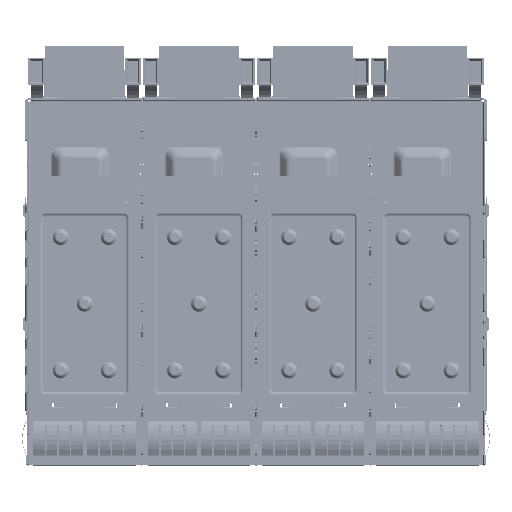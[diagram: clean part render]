
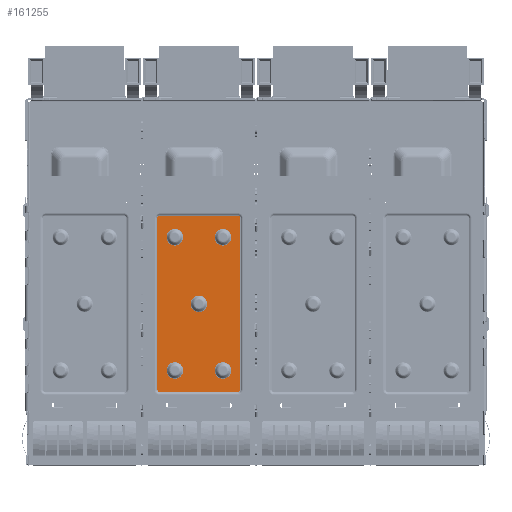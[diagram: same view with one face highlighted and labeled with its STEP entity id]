
A CAD part, top view. The second image highlights one B-rep face of the part: STEP entity #161255.
In plain terms, the highlighted planar face has unit normal (0, 0, 1).
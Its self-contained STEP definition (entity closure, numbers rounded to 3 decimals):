
#15952=CARTESIAN_POINT('',(-57.,41.197,-15.575));
#15953=DIRECTION('',(0.,0.,-1.));
#15954=DIRECTION('',(0.,1.,0.));
#15955=AXIS2_PLACEMENT_3D('',#15952,#15953,#15954);
#15957=DIRECTION('',(0.,-1.,0.));
#15958=VECTOR('',#15957,28.5);
#15959=CARTESIAN_POINT('',(-56.595,41.197,-15.575));
#15960=LINE('',#15959,#15958);
#15961=CARTESIAN_POINT('',(-57.,12.697,-15.575));
#15962=DIRECTION('',(0.,0.,-1.));
#15963=DIRECTION('',(1.,0.,0.));
#15964=AXIS2_PLACEMENT_3D('',#15961,#15962,#15963);
#15966=DIRECTION('',(-1.,0.,0.));
#15967=VECTOR('',#15966,13.);
#15968=CARTESIAN_POINT('',(-57.,12.292,-15.575));
#15969=LINE('',#15968,#15967);
#15970=CARTESIAN_POINT('',(-70.,12.697,-15.575));
#15971=DIRECTION('',(0.,0.,-1.));
#15972=DIRECTION('',(0.,-1.,0.));
#15973=AXIS2_PLACEMENT_3D('',#15970,#15971,#15972);
#15975=DIRECTION('',(0.,1.,0.));
#15976=VECTOR('',#15975,28.5);
#15977=CARTESIAN_POINT('',(-70.405,12.697,-15.575));
#15978=LINE('',#15977,#15976);
#15979=CARTESIAN_POINT('',(-70.,41.197,-15.575));
#15980=DIRECTION('',(0.,0.,-1.));
#15981=DIRECTION('',(-1.,0.,0.));
#15982=AXIS2_PLACEMENT_3D('',#15979,#15980,#15981);
#15984=DIRECTION('',(1.,0.,0.));
#15985=VECTOR('',#15984,13.);
#15986=CARTESIAN_POINT('',(-70.,41.602,-15.575));
#15987=LINE('',#15986,#15985);
#15988=CARTESIAN_POINT('',(-59.5,15.862,-15.575));
#15989=DIRECTION('',(0.,0.,-1.));
#15990=DIRECTION('',(1.,0.,0.));
#15991=AXIS2_PLACEMENT_3D('',#15988,#15989,#15990);
#15993=CARTESIAN_POINT('',(-59.5,15.862,-15.575));
#15994=DIRECTION('',(0.,0.,-1.));
#15995=DIRECTION('',(-1.,0.,0.));
#15996=AXIS2_PLACEMENT_3D('',#15993,#15994,#15995);
#15998=CARTESIAN_POINT('',(-67.5,15.862,-15.575));
#15999=DIRECTION('',(0.,0.,-1.));
#16000=DIRECTION('',(1.,0.,0.));
#16001=AXIS2_PLACEMENT_3D('',#15998,#15999,#16000);
#16003=CARTESIAN_POINT('',(-67.5,15.862,-15.575));
#16004=DIRECTION('',(0.,0.,-1.));
#16005=DIRECTION('',(-1.,0.,0.));
#16006=AXIS2_PLACEMENT_3D('',#16003,#16004,#16005);
#16008=CARTESIAN_POINT('',(-59.5,38.033,-15.575));
#16009=DIRECTION('',(0.,0.,-1.));
#16010=DIRECTION('',(1.,0.,0.));
#16011=AXIS2_PLACEMENT_3D('',#16008,#16009,#16010);
#16013=CARTESIAN_POINT('',(-59.5,38.033,-15.575));
#16014=DIRECTION('',(0.,0.,-1.));
#16015=DIRECTION('',(-1.,0.,0.));
#16016=AXIS2_PLACEMENT_3D('',#16013,#16014,#16015);
#16018=CARTESIAN_POINT('',(-67.5,38.033,-15.575));
#16019=DIRECTION('',(0.,0.,-1.));
#16020=DIRECTION('',(1.,0.,0.));
#16021=AXIS2_PLACEMENT_3D('',#16018,#16019,#16020);
#16023=CARTESIAN_POINT('',(-67.5,38.033,-15.575));
#16024=DIRECTION('',(0.,0.,-1.));
#16025=DIRECTION('',(-1.,0.,0.));
#16026=AXIS2_PLACEMENT_3D('',#16023,#16024,#16025);
#16028=CARTESIAN_POINT('',(-63.5,26.947,-15.575));
#16029=DIRECTION('',(0.,0.,-1.));
#16030=DIRECTION('',(1.,0.,0.));
#16031=AXIS2_PLACEMENT_3D('',#16028,#16029,#16030);
#16033=CARTESIAN_POINT('',(-63.5,26.947,-15.575));
#16034=DIRECTION('',(0.,0.,-1.));
#16035=DIRECTION('',(-1.,0.,0.));
#16036=AXIS2_PLACEMENT_3D('',#16033,#16034,#16035);
#135607=CARTESIAN_POINT('',(-57.,41.602,-15.575));
#135608=CARTESIAN_POINT('',(-56.595,41.197,-15.575));
#135609=VERTEX_POINT('',#135607);
#135610=VERTEX_POINT('',#135608);
#135615=CARTESIAN_POINT('',(-56.595,12.697,-15.575));
#135616=VERTEX_POINT('',#135615);
#135619=CARTESIAN_POINT('',(-57.,12.292,-15.575));
#135620=VERTEX_POINT('',#135619);
#135623=CARTESIAN_POINT('',(-70.,12.292,-15.575));
#135624=VERTEX_POINT('',#135623);
#135627=CARTESIAN_POINT('',(-70.405,12.697,-15.575));
#135628=VERTEX_POINT('',#135627);
#135631=CARTESIAN_POINT('',(-70.405,41.197,-15.575));
#135632=VERTEX_POINT('',#135631);
#135635=CARTESIAN_POINT('',(-70.,41.602,-15.575));
#135636=VERTEX_POINT('',#135635);
#136355=CARTESIAN_POINT('',(-62.114,26.947,-15.575));
#136356=CARTESIAN_POINT('',(-64.886,26.947,-15.575));
#136357=VERTEX_POINT('',#136355);
#136358=VERTEX_POINT('',#136356);
#136359=CARTESIAN_POINT('',(-66.114,38.033,-15.575));
#136360=CARTESIAN_POINT('',(-68.886,38.033,-15.575));
#136361=VERTEX_POINT('',#136359);
#136362=VERTEX_POINT('',#136360);
#136363=CARTESIAN_POINT('',(-58.114,38.033,-15.575));
#136364=CARTESIAN_POINT('',(-60.886,38.033,-15.575));
#136365=VERTEX_POINT('',#136363);
#136366=VERTEX_POINT('',#136364);
#136367=CARTESIAN_POINT('',(-66.114,15.862,-15.575));
#136368=CARTESIAN_POINT('',(-68.886,15.862,-15.575));
#136369=VERTEX_POINT('',#136367);
#136370=VERTEX_POINT('',#136368);
#136371=CARTESIAN_POINT('',(-58.114,15.862,-15.575));
#136372=CARTESIAN_POINT('',(-60.886,15.862,-15.575));
#136373=VERTEX_POINT('',#136371);
#136374=VERTEX_POINT('',#136372);
#161203=CARTESIAN_POINT('',(-63.5,26.947,-15.575));
#161204=DIRECTION('',(0.,0.,-1.));
#161205=DIRECTION('',(-1.,0.,0.));
#161206=AXIS2_PLACEMENT_3D('',#161203,#161204,#161205);
#161207=PLANE('',#161206);
#161209=ORIENTED_EDGE('',*,*,#161208,.T.);
#161211=ORIENTED_EDGE('',*,*,#161210,.T.);
#161213=ORIENTED_EDGE('',*,*,#161212,.T.);
#161215=ORIENTED_EDGE('',*,*,#161214,.T.);
#161217=ORIENTED_EDGE('',*,*,#161216,.T.);
#161219=ORIENTED_EDGE('',*,*,#161218,.T.);
#161220=ORIENTED_EDGE('',*,*,#161193,.T.);
#161222=ORIENTED_EDGE('',*,*,#161221,.T.);
#161223=EDGE_LOOP('',(#161209,#161211,#161213,#161215,#161217,#161219,#161220,
#161222));
#161224=FACE_OUTER_BOUND('',#161223,.F.);
#161226=ORIENTED_EDGE('',*,*,#161225,.F.);
#161228=ORIENTED_EDGE('',*,*,#161227,.F.);
#161229=EDGE_LOOP('',(#161226,#161228));
#161230=FACE_BOUND('',#161229,.F.);
#161232=ORIENTED_EDGE('',*,*,#161231,.F.);
#161234=ORIENTED_EDGE('',*,*,#161233,.F.);
#161235=EDGE_LOOP('',(#161232,#161234));
#161236=FACE_BOUND('',#161235,.F.);
#161238=ORIENTED_EDGE('',*,*,#161237,.F.);
#161240=ORIENTED_EDGE('',*,*,#161239,.F.);
#161241=EDGE_LOOP('',(#161238,#161240));
#161242=FACE_BOUND('',#161241,.F.);
#161244=ORIENTED_EDGE('',*,*,#161243,.F.);
#161246=ORIENTED_EDGE('',*,*,#161245,.F.);
#161247=EDGE_LOOP('',(#161244,#161246));
#161248=FACE_BOUND('',#161247,.F.);
#161250=ORIENTED_EDGE('',*,*,#161249,.F.);
#161252=ORIENTED_EDGE('',*,*,#161251,.F.);
#161253=EDGE_LOOP('',(#161250,#161252));
#161254=FACE_BOUND('',#161253,.F.);
#161255=ADVANCED_FACE('',(#161224,#161230,#161236,#161242,#161248,#161254),
#161207,.F.);
#15956=CIRCLE('',#15955,0.405);
#15965=CIRCLE('',#15964,0.405);
#15974=CIRCLE('',#15973,0.405);
#15983=CIRCLE('',#15982,0.405);
#15992=CIRCLE('',#15991,1.386);
#15997=CIRCLE('',#15996,1.386);
#16002=CIRCLE('',#16001,1.386);
#16007=CIRCLE('',#16006,1.386);
#16012=CIRCLE('',#16011,1.386);
#16017=CIRCLE('',#16016,1.386);
#16022=CIRCLE('',#16021,1.386);
#16027=CIRCLE('',#16026,1.386);
#16032=CIRCLE('',#16031,1.386);
#16037=CIRCLE('',#16036,1.386);
#161193=EDGE_CURVE('',#135632,#135636,#15983,.T.);
#161208=EDGE_CURVE('',#135609,#135610,#15956,.T.);
#161210=EDGE_CURVE('',#135610,#135616,#15960,.T.);
#161212=EDGE_CURVE('',#135616,#135620,#15965,.T.);
#161214=EDGE_CURVE('',#135620,#135624,#15969,.T.);
#161216=EDGE_CURVE('',#135624,#135628,#15974,.T.);
#161218=EDGE_CURVE('',#135628,#135632,#15978,.T.);
#161221=EDGE_CURVE('',#135636,#135609,#15987,.T.);
#161225=EDGE_CURVE('',#136373,#136374,#15992,.T.);
#161227=EDGE_CURVE('',#136374,#136373,#15997,.T.);
#161231=EDGE_CURVE('',#136369,#136370,#16002,.T.);
#161233=EDGE_CURVE('',#136370,#136369,#16007,.T.);
#161237=EDGE_CURVE('',#136365,#136366,#16012,.T.);
#161239=EDGE_CURVE('',#136366,#136365,#16017,.T.);
#161243=EDGE_CURVE('',#136361,#136362,#16022,.T.);
#161245=EDGE_CURVE('',#136362,#136361,#16027,.T.);
#161249=EDGE_CURVE('',#136357,#136358,#16032,.T.);
#161251=EDGE_CURVE('',#136358,#136357,#16037,.T.);
